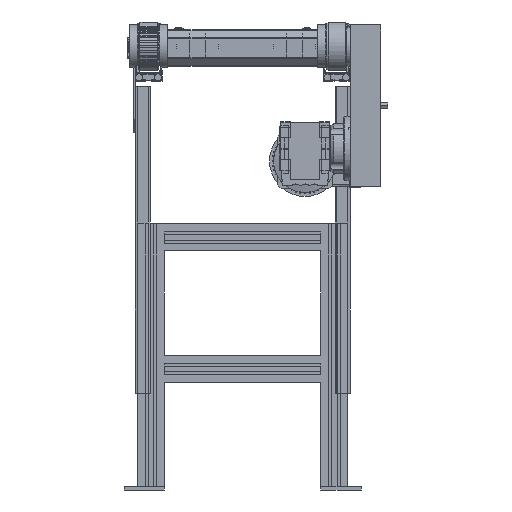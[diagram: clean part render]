
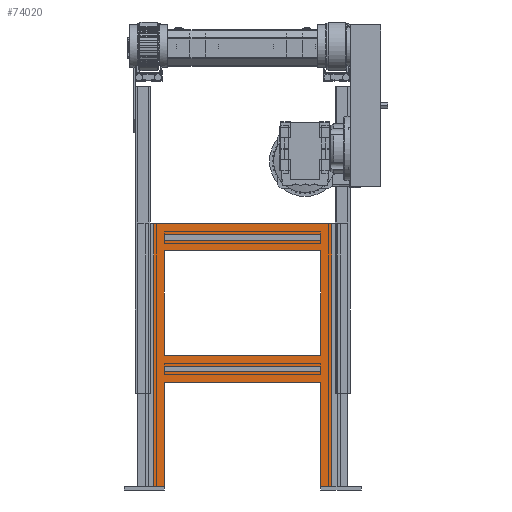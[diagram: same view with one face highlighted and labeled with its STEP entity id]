
A CAD part, front view. The second image highlights one B-rep face of the part: STEP entity #74020.
In plain terms, the highlighted planar face has unit normal (0, -1, 0).
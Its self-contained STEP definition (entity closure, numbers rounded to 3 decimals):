
#584=FACE_BOUND('',#9900,.T.);
#585=FACE_BOUND('',#9901,.T.);
#586=FACE_BOUND('',#9902,.T.);
#6233=FACE_OUTER_BOUND('',#9899,.T.);
#9899=EDGE_LOOP('',(#54785,#54786,#54787,#54788,#54789,#54790,#54791,#54792));
#9900=EDGE_LOOP('',(#54793,#54794,#54795,#54796));
#9901=EDGE_LOOP('',(#54797,#54798,#54799,#54800));
#9902=EDGE_LOOP('',(#54801,#54802,#54803,#54804));
#15465=LINE('',#111831,#23095);
#15540=LINE('',#111999,#23170);
#15546=LINE('',#112013,#23176);
#15562=LINE('',#112046,#23192);
#15586=LINE('',#112097,#23216);
#15734=LINE('',#112391,#23364);
#15761=LINE('',#112444,#23391);
#15786=LINE('',#112493,#23416);
#15798=LINE('',#112517,#23428);
#15801=LINE('',#112523,#23431);
#15848=LINE('',#112616,#23478);
#15852=LINE('',#112624,#23482);
#15855=LINE('',#112629,#23485);
#15864=LINE('',#112644,#23494);
#15875=LINE('',#112666,#23505);
#15887=LINE('',#112690,#23517);
#15929=LINE('',#112771,#23559);
#15933=LINE('',#112778,#23563);
#16030=LINE('',#112968,#23660);
#16031=LINE('',#112970,#23661);
#23095=VECTOR('',#90279,19.95);
#23170=VECTOR('',#90408,194.5);
#23176=VECTOR('',#90418,10.1);
#23192=VECTOR('',#90438,194.5);
#23216=VECTOR('',#90472,10.1);
#23364=VECTOR('',#90706,489.);
#23391=VECTOR('',#90753,19.95);
#23416=VECTOR('',#90810,291.);
#23428=VECTOR('',#90834,291.);
#23431=VECTOR('',#90839,291.);
#23478=VECTOR('',#90926,291.);
#23482=VECTOR('',#90936,194.5);
#23485=VECTOR('',#90941,10.1);
#23494=VECTOR('',#90958,194.5);
#23505=VECTOR('',#90975,291.);
#23517=VECTOR('',#90999,291.);
#23559=VECTOR('',#91079,291.);
#23563=VECTOR('',#91089,10.1);
#23660=VECTOR('',#91272,489.);
#23661=VECTOR('',#91275,330.9);
#30622=VERTEX_POINT('',#111829);
#30623=VERTEX_POINT('',#111830);
#30686=VERTEX_POINT('',#111992);
#30689=VERTEX_POINT('',#111997);
#30694=VERTEX_POINT('',#112010);
#30695=VERTEX_POINT('',#112012);
#30709=VERTEX_POINT('',#112043);
#30710=VERTEX_POINT('',#112045);
#30730=VERTEX_POINT('',#112093);
#30732=VERTEX_POINT('',#112096);
#30834=VERTEX_POINT('',#112387);
#30835=VERTEX_POINT('',#112389);
#30859=VERTEX_POINT('',#112490);
#30865=VERTEX_POINT('',#112515);
#30867=VERTEX_POINT('',#112520);
#30892=VERTEX_POINT('',#112613);
#30894=VERTEX_POINT('',#112623);
#30905=VERTEX_POINT('',#112663);
#30911=VERTEX_POINT('',#112688);
#30981=VERTEX_POINT('',#112966);
#39098=EDGE_CURVE('',#30622,#30623,#15465,.T.);
#39183=EDGE_CURVE('',#30686,#30689,#15540,.T.);
#39189=EDGE_CURVE('',#30695,#30694,#15546,.T.);
#39205=EDGE_CURVE('',#30710,#30709,#15562,.T.);
#39229=EDGE_CURVE('',#30732,#30730,#15586,.T.);
#39377=EDGE_CURVE('',#30835,#30834,#15734,.T.);
#39404=EDGE_CURVE('',#30835,#30710,#15761,.T.);
#39431=EDGE_CURVE('',#30695,#30859,#15786,.T.);
#39443=EDGE_CURVE('',#30694,#30865,#15798,.T.);
#39446=EDGE_CURVE('',#30686,#30867,#15801,.T.);
#39493=EDGE_CURVE('',#30709,#30892,#15848,.T.);
#39497=EDGE_CURVE('',#30867,#30894,#15852,.T.);
#39500=EDGE_CURVE('',#30859,#30865,#15855,.T.);
#39509=EDGE_CURVE('',#30623,#30892,#15864,.T.);
#39520=EDGE_CURVE('',#30732,#30905,#15875,.T.);
#39532=EDGE_CURVE('',#30730,#30911,#15887,.T.);
#39574=EDGE_CURVE('',#30689,#30894,#15929,.T.);
#39578=EDGE_CURVE('',#30905,#30911,#15933,.T.);
#39675=EDGE_CURVE('',#30622,#30981,#16030,.T.);
#39676=EDGE_CURVE('',#30834,#30981,#16031,.T.);
#54785=ORIENTED_EDGE('',*,*,#39493,.T.);
#54786=ORIENTED_EDGE('',*,*,#39509,.F.);
#54787=ORIENTED_EDGE('',*,*,#39098,.F.);
#54788=ORIENTED_EDGE('',*,*,#39675,.T.);
#54789=ORIENTED_EDGE('',*,*,#39676,.F.);
#54790=ORIENTED_EDGE('',*,*,#39377,.F.);
#54791=ORIENTED_EDGE('',*,*,#39404,.T.);
#54792=ORIENTED_EDGE('',*,*,#39205,.T.);
#54793=ORIENTED_EDGE('',*,*,#39443,.T.);
#54794=ORIENTED_EDGE('',*,*,#39500,.F.);
#54795=ORIENTED_EDGE('',*,*,#39431,.F.);
#54796=ORIENTED_EDGE('',*,*,#39189,.T.);
#54797=ORIENTED_EDGE('',*,*,#39532,.T.);
#54798=ORIENTED_EDGE('',*,*,#39578,.F.);
#54799=ORIENTED_EDGE('',*,*,#39520,.F.);
#54800=ORIENTED_EDGE('',*,*,#39229,.T.);
#54801=ORIENTED_EDGE('',*,*,#39446,.F.);
#54802=ORIENTED_EDGE('',*,*,#39183,.T.);
#54803=ORIENTED_EDGE('',*,*,#39574,.T.);
#54804=ORIENTED_EDGE('',*,*,#39497,.F.);
#67475=PLANE('',#78783);
#74020=ADVANCED_FACE('',(#6233,#584,#585,#586),#67475,.T.);
#78783=AXIS2_PLACEMENT_3D('',#112969,#91273,#91274);
#90279=DIRECTION('',(-1.,0.,0.));
#90408=DIRECTION('',(0.,0.,1.));
#90418=DIRECTION('',(0.,0.,1.));
#90438=DIRECTION('',(0.,0.,1.));
#90472=DIRECTION('',(0.,0.,1.));
#90706=DIRECTION('',(0.,0.,1.));
#90753=DIRECTION('',(1.,0.,0.));
#90810=DIRECTION('',(1.,0.,0.));
#90834=DIRECTION('',(1.,0.,0.));
#90839=DIRECTION('',(1.,0.,0.));
#90926=DIRECTION('',(1.,0.,0.));
#90936=DIRECTION('',(0.,0.,1.));
#90941=DIRECTION('',(0.,0.,1.));
#90958=DIRECTION('',(0.,0.,1.));
#90975=DIRECTION('',(1.,0.,0.));
#90999=DIRECTION('',(1.,0.,0.));
#91079=DIRECTION('',(1.,0.,0.));
#91089=DIRECTION('',(0.,0.,1.));
#91272=DIRECTION('',(0.,0.,1.));
#91273=DIRECTION('center_axis',(0.,-1.,0.));
#91274=DIRECTION('ref_axis',(0.,0.,-1.));
#91275=DIRECTION('',(1.,0.,0.));
#111829=CARTESIAN_POINT('',(165.45,-845.,-819.));
#111830=CARTESIAN_POINT('',(145.5,-845.,-819.));
#111831=CARTESIAN_POINT('',(174.225,-845.,-819.));
#111992=CARTESIAN_POINT('',(-145.5,-845.,-574.5));
#111997=CARTESIAN_POINT('',(-145.5,-845.,-380.));
#111999=CARTESIAN_POINT('',(-145.5,-845.,-819.));
#112010=CARTESIAN_POINT('',(-145.5,-845.,-594.45));
#112012=CARTESIAN_POINT('',(-145.5,-845.,-604.55));
#112013=CARTESIAN_POINT('',(-145.5,-845.,-819.));
#112043=CARTESIAN_POINT('',(-145.5,-845.,-624.5));
#112045=CARTESIAN_POINT('',(-145.5,-845.,-819.));
#112046=CARTESIAN_POINT('',(-145.5,-845.,-819.));
#112093=CARTESIAN_POINT('',(-145.5,-845.,-349.95));
#112096=CARTESIAN_POINT('',(-145.5,-845.,-360.05));
#112097=CARTESIAN_POINT('',(-145.5,-845.,-819.));
#112387=CARTESIAN_POINT('',(-165.45,-845.,-330.));
#112389=CARTESIAN_POINT('',(-165.45,-845.,-819.));
#112391=CARTESIAN_POINT('',(-165.45,-845.,-819.));
#112444=CARTESIAN_POINT('',(-174.225,-845.,-819.));
#112490=CARTESIAN_POINT('',(145.5,-845.,-604.55));
#112493=CARTESIAN_POINT('',(0.,-845.,-604.55));
#112515=CARTESIAN_POINT('',(145.5,-845.,-594.45));
#112517=CARTESIAN_POINT('',(0.,-845.,-594.45));
#112520=CARTESIAN_POINT('',(145.5,-845.,-574.5));
#112523=CARTESIAN_POINT('',(0.,-845.,-574.5));
#112613=CARTESIAN_POINT('',(145.5,-845.,-624.5));
#112616=CARTESIAN_POINT('',(0.,-845.,-624.5));
#112623=CARTESIAN_POINT('',(145.5,-845.,-380.));
#112624=CARTESIAN_POINT('',(145.5,-845.,-819.));
#112629=CARTESIAN_POINT('',(145.5,-845.,-819.));
#112644=CARTESIAN_POINT('',(145.5,-845.,-819.));
#112663=CARTESIAN_POINT('',(145.5,-845.,-360.05));
#112666=CARTESIAN_POINT('',(0.,-845.,-360.05));
#112688=CARTESIAN_POINT('',(145.5,-845.,-349.95));
#112690=CARTESIAN_POINT('',(0.,-845.,-349.95));
#112771=CARTESIAN_POINT('',(0.,-845.,-380.));
#112778=CARTESIAN_POINT('',(145.5,-845.,-819.));
#112966=CARTESIAN_POINT('',(165.45,-845.,-330.));
#112968=CARTESIAN_POINT('',(165.45,-845.,-819.));
#112969=CARTESIAN_POINT('Origin',(165.45,-845.,-819.));
#112970=CARTESIAN_POINT('',(0.,-845.,-330.));
